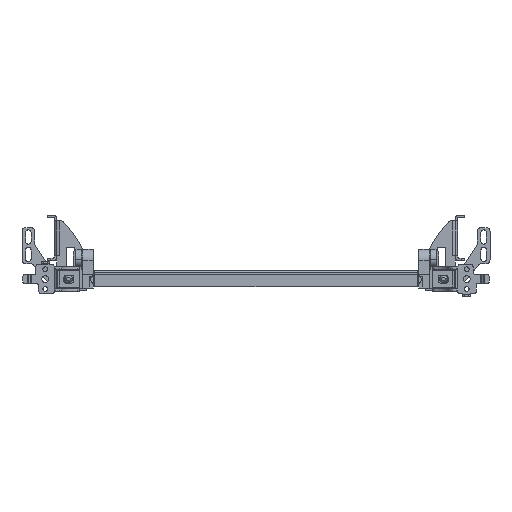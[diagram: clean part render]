
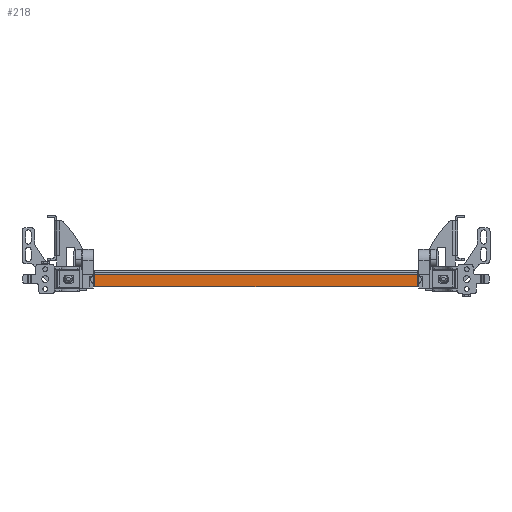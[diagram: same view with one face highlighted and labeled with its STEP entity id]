
A CAD part, front view. The second image highlights one B-rep face of the part: STEP entity #218.
In plain terms, the highlighted planar face has unit normal (0, -1, 0).
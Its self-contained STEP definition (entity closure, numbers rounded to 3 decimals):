
#92 = VECTOR ( 'NONE', #12116, 1000. ) ;
#218 = ADVANCED_FACE ( 'NONE', ( #1798 ), #6509, .F. ) ;
#338 = DIRECTION ( 'NONE',  ( 0., 0., 1. ) ) ;
#1798 = FACE_OUTER_BOUND ( 'NONE', #18672, .T. ) ;
#1894 = CARTESIAN_POINT ( 'NONE',  ( 0., -648., 0. ) ) ;
#2226 = VERTEX_POINT ( 'NONE', #18888 ) ;
#2680 = VECTOR ( 'NONE', #17274, 1000. ) ;
#2935 = DIRECTION ( 'NONE',  ( 0., -1., 0. ) ) ;
#3626 = CARTESIAN_POINT ( 'NONE',  ( 204.5, -648., -20. ) ) ;
#3779 = CARTESIAN_POINT ( 'NONE',  ( 205.5, -648., -2.5 ) ) ;
#3810 = VERTEX_POINT ( 'NONE', #13556 ) ;
#4612 = CIRCLE ( 'NONE', #12804, 1. ) ;
#4852 = ORIENTED_EDGE ( 'NONE', *, *, #16265, .T. ) ;
#4854 = LINE ( 'NONE', #6810, #13570 ) ;
#5310 = VECTOR ( 'NONE', #16376, 1000. ) ;
#6076 = CARTESIAN_POINT ( 'NONE',  ( 205.5, -648., -20. ) ) ;
#6321 = LINE ( 'NONE', #8049, #2680 ) ;
#6509 = PLANE ( 'NONE',  #9212 ) ;
#6810 = CARTESIAN_POINT ( 'NONE',  ( -205.5, -648., -21. ) ) ;
#7951 = CARTESIAN_POINT ( 'NONE',  ( -204.5, -648., -20. ) ) ;
#8049 = CARTESIAN_POINT ( 'NONE',  ( 205.5, -648., -21. ) ) ;
#8409 = CARTESIAN_POINT ( 'NONE',  ( 204.5, -648., -21. ) ) ;
#8647 = CARTESIAN_POINT ( 'NONE',  ( 205.5, -648., -5. ) ) ;
#8946 = EDGE_CURVE ( 'NONE', #3810, #2226, #4854, .T. ) ;
#9182 = DIRECTION ( 'NONE',  ( 0., 0., 1. ) ) ;
#9212 = AXIS2_PLACEMENT_3D ( 'NONE', #1894, #12761, #9695 ) ;
#9219 = AXIS2_PLACEMENT_3D ( 'NONE', #7951, #2935, #9182 ) ;
#9237 = VERTEX_POINT ( 'NONE', #6076 ) ;
#9695 = DIRECTION ( 'NONE',  ( 0., 0., 1. ) ) ;
#10542 = VERTEX_POINT ( 'NONE', #8409 ) ;
#10865 = CIRCLE ( 'NONE', #9219, 1. ) ;
#12116 = DIRECTION ( 'NONE',  ( 1., 0., 0. ) ) ;
#12761 = DIRECTION ( 'NONE',  ( 0., 1., 0. ) ) ;
#12804 = AXIS2_PLACEMENT_3D ( 'NONE', #3626, #19316, #338 ) ;
#13556 = CARTESIAN_POINT ( 'NONE',  ( -205.5, -648., -20. ) ) ;
#13569 = VERTEX_POINT ( 'NONE', #19438 ) ;
#13570 = VECTOR ( 'NONE', #16143, 1000. ) ;
#13936 = ORIENTED_EDGE ( 'NONE', *, *, #19970, .F. ) ;
#15001 = LINE ( 'NONE', #8647, #92 ) ;
#16026 = ORIENTED_EDGE ( 'NONE', *, *, #8946, .F. ) ;
#16143 = DIRECTION ( 'NONE',  ( 0., 0., 1. ) ) ;
#16265 = EDGE_CURVE ( 'NONE', #10542, #9237, #4612, .T. ) ;
#16376 = DIRECTION ( 'NONE',  ( 0., 0., -1. ) ) ;
#16960 = ORIENTED_EDGE ( 'NONE', *, *, #19092, .F. ) ;
#17274 = DIRECTION ( 'NONE',  ( -1., 0., 0. ) ) ;
#17372 = CARTESIAN_POINT ( 'NONE',  ( 205.5, -648., -5. ) ) ;
#17757 = ORIENTED_EDGE ( 'NONE', *, *, #19342, .F. ) ;
#17912 = LINE ( 'NONE', #3779, #5310 ) ;
#18213 = VERTEX_POINT ( 'NONE', #17372 ) ;
#18659 = ORIENTED_EDGE ( 'NONE', *, *, #19319, .T. ) ;
#18672 = EDGE_LOOP ( 'NONE', ( #16026, #18659, #17757, #4852, #16960, #13936 ) ) ;
#18888 = CARTESIAN_POINT ( 'NONE',  ( -205.5, -648., -5. ) ) ;
#19092 = EDGE_CURVE ( 'NONE', #18213, #9237, #17912, .T. ) ;
#19316 = DIRECTION ( 'NONE',  ( 0., -1., 0. ) ) ;
#19319 = EDGE_CURVE ( 'NONE', #3810, #13569, #10865, .T. ) ;
#19342 = EDGE_CURVE ( 'NONE', #10542, #13569, #6321, .T. ) ;
#19438 = CARTESIAN_POINT ( 'NONE',  ( -204.5, -648., -21. ) ) ;
#19970 = EDGE_CURVE ( 'NONE', #2226, #18213, #15001, .T. ) ;
